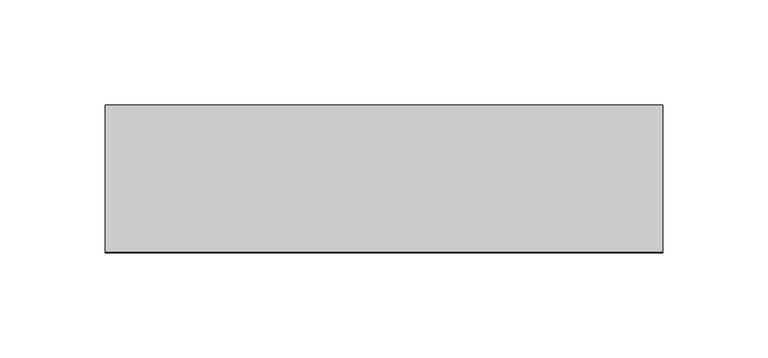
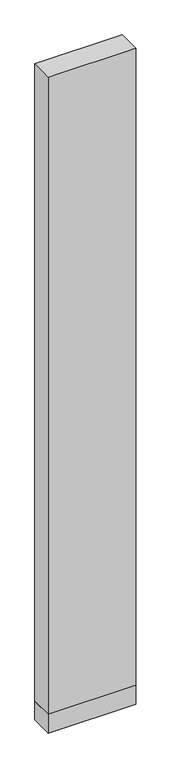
"""IFC4 building model written with IfcOpenShell, lengths in millimetres: plate geometry, 営_パーティションパネル_下部 : パーティションパネル_下部."""

from ifc_helpers import new_model, si_unit, frame, origin, origin_with_axes, place, context, project, spatial, polyline, outline, extrude, source, transform, mapped, element, save


def plate_ee08bcfe(model_context):
    return source(origin(), model_context, "Body", "SweptSolid", [
        extrude(outline(polyline([(-132.4999998, -35.0), (-132.4999998, 35.0), (132.4999998, 35.0), (132.4999998, -35.0), (-132.4999998, -35.0)])), origin_with_axes(), (0.0, 0.0, 1.0), 60.0),
        extrude(outline(polyline([(-132.4999998, -35.0), (-132.4999998, 35.0), (132.4999998, 35.0), (132.4999998, -35.0), (-132.4999998, -35.0)])), frame((0.0, 0.0, 60.0), z_axis=(0.0, 0.0, 1.0), x_axis=(1.0, 0.0, 0.0)), (0.0, 0.0, 1.0), 2040.0),
    ])


if __name__ == "__main__":
    model = new_model("IFC4")
    model_context = context("Model", 3, world=origin())
    ifc_project = project(units=[si_unit("LENGTHUNIT", "METRE", prefix="MILLI")], contexts=[model_context])
    site = spatial("IfcSite", under=ifc_project)
    building = spatial("IfcBuilding", under=site)
    placement = place(None, origin())
    plate_shape = plate_ee08bcfe(model_context)
    element("IfcPlate", 1, ObjectType="営_パーティションパネル_下部 : パーティションパネル_下部", at=placement, inside=building, context=model_context, shape_type="MappedRepresentation", body=[
        mapped(plate_shape, transform((0.0, 0.0, 0.0), x_axis=(1.0, 0.0, 0.0), y_axis=(0.0, 1.0, 0.0), z_axis=(0.0, 0.0, 1.0))),
    ])
    save(model, "model.ifc")
